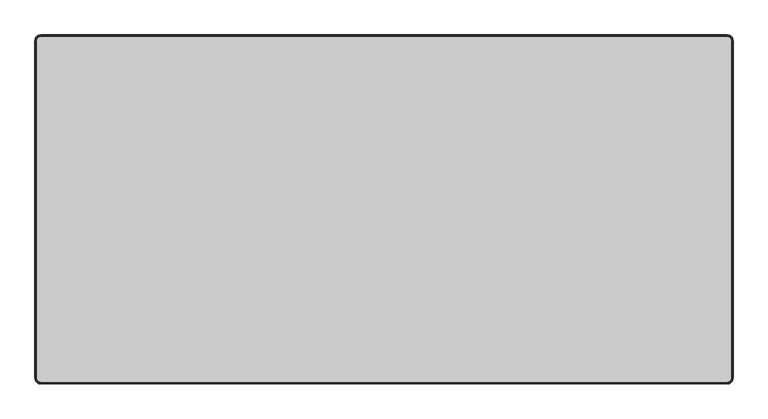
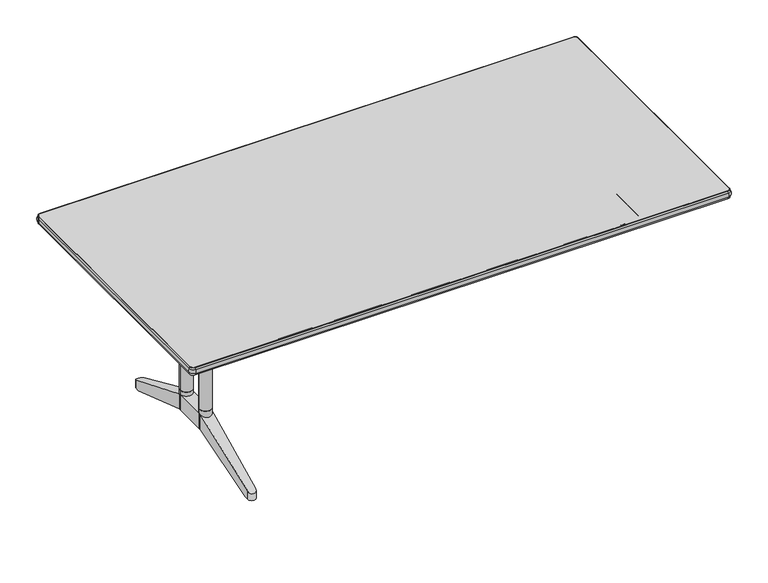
"""IFC4 building model written with IfcOpenShell, lengths in millimetres: furniture geometry, Furniture_Wilkhahn_614-00_TimetableShift : TIMETABLE SHIFT 614/00 1800L x 0900W."""

from ifc_helpers import new_model, si_unit, point, frame, frame_2d, origin, place, context, project, spatial, polyline, circle_curve, ellipse_curve, trimmed, segment, composite_curve, outline, extrude, source, transform, mapped, element, save
from ifc_brep_helpers import plane_surface, cylinder_surface, revolved_surface, advanced_brep


def furniture_7824c613(model_context):
    return source(origin(), model_context, "Body", "SolidModel", [
        extrude(outline(composite_curve([segment(trimmed(circle_curve(frame_2d((-625.0, -154.0488451)), 20.0), [point((-645.0, -154.0488451))], [point((-605.0, -154.0488451))], False, "CARTESIAN"), True, "CONTINUOUS"), segment(trimmed(circle_curve(frame_2d((-625.0, -154.0488451)), 20.0), [point((-605.0, -154.0488451))], [point((-645.0, -154.0488451))], False, "CARTESIAN"), True, "CONTINUOUS")], self_intersect=False)), frame((0.0, 0.0, 193.3080085), z_axis=(0.0, 0.0, 1.0), x_axis=(1.0, 0.0, 0.0)), (0.0, 0.0, 1.0), 68.8536941),
        extrude(outline(composite_curve([segment(trimmed(circle_curve(frame_2d((-625.0, -44.0488461)), 20.0), [point((-645.0, -44.0488461))], [point((-605.0, -44.0488461))], False, "CARTESIAN"), True, "CONTINUOUS"), segment(trimmed(circle_curve(frame_2d((-625.0, -44.0488461)), 20.0), [point((-605.0, -44.0488461))], [point((-645.0, -44.0488461))], False, "CARTESIAN"), True, "CONTINUOUS")], self_intersect=False)), frame((0.0, 0.0, 193.3080085), z_axis=(0.0, 0.0, 1.0), x_axis=(1.0, 0.0, 0.0)), (0.0, 0.0, 1.0), 68.8536941),
        extrude(outline(composite_curve([segment(trimmed(circle_curve(frame_2d((-625.0, -154.0488451)), 20.0), [point((-645.0, -154.0488451))], [point((-605.0, -154.0488451))], False, "CARTESIAN"), True, "CONTINUOUS"), segment(trimmed(circle_curve(frame_2d((-625.0, -154.0488451)), 20.0), [point((-605.0, -154.0488451))], [point((-645.0, -154.0488451))], False, "CARTESIAN"), True, "CONTINUOUS")], self_intersect=False)), frame((0.0, 0.0, 262.1617027), z_axis=(0.0, 0.0, 1.0), x_axis=(1.0, 0.0, 0.0)), (0.0, 0.0, 1.0), 317.8382973),
        extrude(outline(composite_curve([segment(trimmed(circle_curve(frame_2d((-625.0, -44.0488461)), 20.0), [point((-645.0, -44.0488461))], [point((-605.0, -44.0488461))], False, "CARTESIAN"), True, "CONTINUOUS"), segment(trimmed(circle_curve(frame_2d((-625.0, -44.0488461)), 20.0), [point((-605.0, -44.0488461))], [point((-645.0, -44.0488461))], False, "CARTESIAN"), True, "CONTINUOUS")], self_intersect=False)), frame((0.0, 0.0, 262.1617027), z_axis=(0.0, 0.0, 1.0), x_axis=(1.0, 0.0, 0.0)), (0.0, 0.0, 1.0), 317.8382973),
        extrude(outline(polyline([(-598.9999882, 147.9511612), (-598.9999882, -352.0488426), (-651.0000118, -352.0488426), (-651.0000118, 147.9511612), (-598.9999882, 147.9511612)])), frame((0.0, 0.0, 676.0000168), z_axis=(0.0, 0.0, 1.0), x_axis=(1.0, 0.0, 0.0)), (0.0, 0.0, 1.0), 27.9999624),
        advanced_brep(
        [(-639.9998762, -140.8200278, 676.0000168), (-609.9998905, -140.8201331, 676.0000168), (-609.9998905, -134.0488456, 676.0000168), (-639.9998762, -134.0488456, 676.0000168), (-609.9998905, -57.2775581, 676.0000168), (-639.9998762, -57.2776634, 676.0000168), (-639.9998762, -64.0488456, 676.0000168), (-609.9998905, -64.0488456, 676.0000168), (-639.9998762, -57.2776634, 580.0), (-609.9998905, -57.2775581, 580.0), (-609.9998905, -140.8201331, 580.0), (-639.9998762, -140.8200278, 580.0), (-639.9998762, -134.0488456, 598.0000176), (-639.9998762, -64.0488456, 598.0000176), (-609.9998905, -64.0488456, 598.0000176), (-609.9998905, -134.0488456, 598.0000176)],
        [
            (0, 1, circle_curve(frame((-624.9999298, -154.0488451, 676.0000168), z_axis=(0.0, 0.0, 1.0), x_axis=(1.0, 0.0, 0.0)), 20.0)),
            (1, 2),
            (2, 3),
            (3, 0),
            (4, 5, circle_curve(frame((-624.9999298, -44.0488461, 676.0000168), z_axis=(0.0, 0.0, 1.0), x_axis=(1.0, 0.0, 0.0)), 20.0)),
            (5, 6),
            (6, 7),
            (7, 4),
            (8, 9, circle_curve(frame((-624.9999298, -44.0488461, 580.0), z_axis=(0.0, 0.0, -1.0), x_axis=(1.0, 0.0, 0.0)), 20.0)),
            (9, 10),
            (10, 11, circle_curve(frame((-624.9999298, -154.0488451, 580.0), z_axis=(0.0, 0.0, -1.0), x_axis=(1.0, 0.0, 0.0)), 20.0)),
            (11, 8),
            (11, 0),
            (3, 12),
            (12, 13),
            (13, 6),
            (5, 8),
            (10, 1),
            (9, 4),
            (7, 14),
            (14, 15),
            (15, 2),
            (15, 12),
            (14, 13),
        ],
        [
            plane_surface(frame((-639.9998762, -140.8200278, 676.0000168), z_axis=(0.0, 0.0, 1.0), x_axis=(0.0, -1.0, 0.0))),
            plane_surface(frame((-639.9998762, -140.8200278, 580.0), z_axis=(0.0, 0.0, -1.0), x_axis=(0.0, 1.0, 0.0))),
            plane_surface(frame((-639.9998762, -57.2776634, 676.0000168), z_axis=(-1.0, 0.0, 0.0), x_axis=(0.0, 0.0, -1.0))),
            cylinder_surface(frame((-624.9999298, -154.0488451, 580.0), z_axis=(0.0, 0.0, 1.0), x_axis=(1.0, 0.0, 0.0)), 20.0),
            plane_surface(frame((-609.9998905, -140.8201331, 676.0000168), z_axis=(1.0, 0.0, 0.0), x_axis=(0.0, 0.0, -1.0))),
            cylinder_surface(frame((-624.9999298, -44.0488461, 580.0), z_axis=(0.0, 0.0, 1.0), x_axis=(1.0, 0.0, 0.0)), 20.0),
            plane_surface(frame((-609.9998905, -134.0488456, 676.0000168), z_axis=(0.0, 1.0, 0.0), x_axis=(-1.0, 0.0, 0.0))),
            plane_surface(frame((-609.9998905, -134.0488456, 598.0000176), z_axis=(0.0, 0.0, 1.0), x_axis=(-1.0, 0.0, 0.0))),
            plane_surface(frame((-609.9998905, -64.0488456, 598.0000176), z_axis=(0.0, -1.0, 0.0), x_axis=(-1.0, 0.0, 0.0))),
        ],
        [
            (0, [[1, 2, 3, 4]]),
            (0, [[5, 6, 7, 8]]),
            (1, [[9, 10, 11, 12]]),
            (2, [[-12, 13, -4, 14, 15, 16, -6, 17]]),
            (3, [[-1, -13, -11, 18]]),
            (4, [[-10, 19, -8, 20, 21, 22, -2, -18]]),
            (5, [[-5, -19, -9, -17]]),
            (6, [[23, -14, -3, -22]]),
            (7, [[-23, -21, 24, -15]]),
            (8, [[-24, -20, -7, -16]]),
        ],
    ),
        advanced_brep(
        [(-611.5271049, 208.4135103, 105.0), (-638.472897, 208.4135103, 105.0), (-638.1262294, 221.8222582, 105.0), (-611.8737706, 221.8222564, 105.0), (-638.1262294, 221.8222582, 133.4205559), (-645.0000182, -44.0488461, 248.3080085), (-605.0000182, -44.0488461, 248.3080085), (-611.8737706, 221.8222564, 133.4205567), (-605.2000412, -36.3121196, 193.3080085), (-644.7999941, -36.3121196, 193.3080085), (-611.8737706, -419.9199475, 133.4205567), (-605.0000182, -154.0488451, 248.3080085), (-645.0000182, -154.0488451, 248.3080085), (-638.1262294, -419.9199493, 133.4205559), (-611.8737706, -419.9199475, 105.0), (-611.5271049, -406.5112014, 105.0), (-605.2000412, -161.7855715, 193.3080085), (-605.0000182, -154.0488451, 193.3080085), (-638.1262294, -419.9199493, 105.0), (-645.0000182, -154.0488451, 193.3080085), (-644.7999941, -161.7855715, 193.3080085), (-638.472897, -406.5112014, 105.0), (-645.0000182, -44.0488461, 193.3080085), (-605.0000182, -44.0488461, 193.3080085)],
        [
            (0, 1),
            (1, 2),
            (2, 3, circle_curve(frame((-625.0, 221.4828948, 105.0), z_axis=(0.0, 0.0, -1.0), x_axis=(1.0, 0.0, 0.0)), 13.1306156)),
            (3, 0),
            (4, 5),
            (5, 6),
            (6, 7),
            (7, 4, ellipse_curve(frame((-625.0, 221.4828948, 133.5672007), z_axis=(0.0, 0.3966672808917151, 0.9179624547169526), x_axis=(0.0, 0.9179624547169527, -0.39666728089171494)), 14.3040878, 13.1306156)),
            (0, 8),
            (8, 9),
            (9, 1),
            (10, 11),
            (11, 12),
            (12, 13),
            (13, 10, ellipse_curve(frame((-625.0, -419.5805859, 133.5672007), z_axis=(0.0, -0.3966672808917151, 0.9179624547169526), x_axis=(0.0, -0.9179624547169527, -0.39666728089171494)), 14.3040878, 13.1306156)),
            (10, 14),
            (14, 15),
            (15, 16),
            (16, 17),
            (17, 11),
            (13, 18),
            (18, 14, circle_curve(frame((-625.0, -419.5805859, 105.0), z_axis=(0.0, 0.0, 1.0), x_axis=(1.0, 0.0, 0.0)), 13.1306156)),
            (12, 19),
            (19, 20),
            (20, 21),
            (21, 18),
            (4, 2),
            (9, 22),
            (22, 5),
            (7, 3),
            (6, 23),
            (23, 8),
            (21, 15),
            (20, 16),
            (11, 6),
            (5, 12),
            (22, 19),
            (17, 23),
        ],
        [
            plane_surface(frame((-603.6205415, 208.4135103, 105.0), z_axis=(0.0, 0.0, -1.0), x_axis=(-1.0, 0.0, 0.0))),
            plane_surface(frame((-603.6205415, 235.9511544, 127.3152182), z_axis=(0.0, 0.3966672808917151, 0.9179624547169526), x_axis=(-1.0, 0.0, 0.0))),
            plane_surface(frame((-603.6205415, -36.3121196, 193.3080085), z_axis=(0.0, -0.3394229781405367, -0.9406338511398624), x_axis=(-1.0, 0.0, 0.0))),
            plane_surface(frame((-603.6205415, -154.0488451, 248.3080085), z_axis=(0.0, -0.3966672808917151, 0.9179624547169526), x_axis=(-1.0, 0.0, 0.0))),
            plane_surface(frame((-605.0000182, -154.0488451, 249.0000084), z_axis=(0.9996659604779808, -0.025845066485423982, 0.0), x_axis=(0.0, 0.0, -1.0))),
            cylinder_surface(frame((-625.0, -419.5805859, 90.0000025), z_axis=(0.0, 0.0, -1.0), x_axis=(1.0, 0.0, 0.0)), 13.1306156),
            plane_surface(frame((-638.1262294, -419.9199493, 249.0000084), z_axis=(-0.9996659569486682, -0.025845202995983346, 0.0), x_axis=(0.0, 0.0, -1.0))),
            plane_surface(frame((-645.0000182, -44.0488461, 249.0000084), z_axis=(-0.9996659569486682, 0.025845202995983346, 0.0), x_axis=(0.0, 0.0, -1.0))),
            cylinder_surface(frame((-625.0, 221.4828948, 0.0), z_axis=(0.0, 0.0, -1.0), x_axis=(1.0, 0.0, 0.0)), 13.1306156),
            plane_surface(frame((-611.8737706, 221.8222564, 249.0000084), z_axis=(0.9996659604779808, 0.025845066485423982, 0.0), x_axis=(0.0, 0.0, -1.0))),
            plane_surface(frame((-603.6205415, -434.0488456, 105.0), z_axis=(0.0, 0.0, -1.0), x_axis=(-1.0, 0.0, 0.0))),
            plane_surface(frame((-603.6205415, -406.5112014, 105.0), z_axis=(0.0, 0.3394229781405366, -0.9406338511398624), x_axis=(-1.0, 0.0, 0.0))),
            plane_surface(frame((-605.0000182, -44.0488461, 248.3080085), z_axis=(0.0, 0.0, 1.0), x_axis=(0.0, 1.0, 0.0))),
            plane_surface(frame((-645.0000182, -44.0488461, 248.3080085), z_axis=(-1.0, 0.0, 0.0), x_axis=(0.0, 0.0, -1.0))),
            plane_surface(frame((-605.0000182, -154.0488451, 248.3080085), z_axis=(1.0, 0.0, 0.0), x_axis=(0.0, 0.0, -1.0))),
            plane_surface(frame((-603.6205415, -44.0488461, 193.3080085), z_axis=(0.0, 0.0, -1.0), x_axis=(-1.0, 0.0, 0.0))),
        ],
        [
            (0, [[1, 2, 3, 4]]),
            (1, [[5, 6, 7, 8]]),
            (2, [[-1, 9, 10, 11]]),
            (3, [[12, 13, 14, 15]]),
            (4, [[16, 17, 18, 19, 20, -12]]),
            (5, [[-16, -15, 21, 22]]),
            (6, [[-21, -14, 23, 24, 25, 26]]),
            (7, [[27, -2, -11, 28, 29, -5]]),
            (8, [[-27, -8, 30, -3]]),
            (9, [[-30, -7, 31, 32, -9, -4]]),
            (10, [[33, -17, -22, -26]]),
            (11, [[-33, -25, 34, -18]]),
            (12, [[35, -6, 36, -13]]),
            (13, [[-36, -29, 37, -23]]),
            (14, [[-35, -20, 38, -31]]),
            (15, [[-10, -32, -38, -19, -34, -24, -37, -28]]),
        ],
    ),
        extrude(outline(composite_curve([segment(trimmed(circle_curve(frame_2d((-885.0, 335.9511544)), 10.0), [point((-895.0, 335.9511544))], [point((-885.0, 345.9511544))], False, "CARTESIAN"), True, "CONTINUOUS"), segment(polyline([(-885.0, 345.9511544), (885.0, 345.9511544)]), True, "CONTINUOUS"), segment(trimmed(circle_curve(frame_2d((885.0, 335.9511544)), 10.0), [point((885.0, 345.9511544))], [point((895.0, 335.9511544))], False, "CARTESIAN"), True, "CONTINUOUS"), segment(polyline([(895.0, 335.9511544), (895.0, -534.0488456)]), True, "CONTINUOUS"), segment(trimmed(circle_curve(frame_2d((885.0, -534.0488456)), 10.0), [point((895.0, -534.0488456))], [point((885.0, -544.0488456))], False, "CARTESIAN"), True, "CONTINUOUS"), segment(polyline([(885.0, -544.0488456), (-885.0, -544.0488456)]), True, "CONTINUOUS"), segment(trimmed(circle_curve(frame_2d((-885.0, -534.0488456)), 10.0), [point((-885.0, -544.0488456))], [point((-895.0, -534.0488456))], False, "CARTESIAN"), True, "CONTINUOUS"), segment(polyline([(-895.0, -534.0488456), (-895.0, 335.9511544)]), True, "CONTINUOUS")], self_intersect=False)), frame((0.0, 0.0, 703.9999792), z_axis=(0.0, 0.0, 1.0), x_axis=(1.0, 0.0, 0.0)), (0.0, 0.0, 1.0), 26.0000208),
        extrude(outline(composite_curve([segment(trimmed(circle_curve(frame_2d((689.999998, -625.0)), 3.5), [point((686.499998, -625.0))], [point((693.499998, -625.0))], False, "CARTESIAN"), True, "CONTINUOUS"), segment(trimmed(circle_curve(frame_2d((689.999998, -625.0)), 3.5), [point((693.499998, -625.0))], [point((686.499998, -625.0))], False, "CARTESIAN"), True, "CONTINUOUS")], self_intersect=False)), frame((0.0, -475.4394749, 0.0), z_axis=(0.0, 1.0, 0.0), x_axis=(0.0, 0.0, 1.0)), (0.0, 0.0, 1.0), 123.3906323),
        extrude(outline(composite_curve([segment(trimmed(circle_curve(frame_2d((689.999998, 625.0)), 3.5), [point((686.499998, 625.0))], [point((693.499998, 625.0))], False, "CARTESIAN"), True, "CONTINUOUS"), segment(trimmed(circle_curve(frame_2d((689.999998, 625.0)), 3.5), [point((693.499998, 625.0))], [point((686.499998, 625.0))], False, "CARTESIAN"), True, "CONTINUOUS")], self_intersect=False)), frame((0.0, -475.4394749, 0.0), z_axis=(0.0, 1.0, 0.0), x_axis=(0.0, 0.0, 1.0)), (0.0, 0.0, 1.0), 123.3906323),
        advanced_brep(
        [(-885.0, -544.0488456, 703.9999792), (-895.0, -534.0488456, 703.9999792), (-895.0, -534.0488456, 730.0), (-885.0, -544.0488456, 730.0), (-885.0, -547.4983863, 710.4062743), (-898.4495407, -534.0488456, 710.4062743), (-896.2436764, -534.0488456, 703.9999792), (-885.0, -545.292522, 703.9999792), (-885.0, -547.4983863, 723.593705), (-898.4495407, -534.0488456, 723.593705), (-885.0, -545.292522, 730.0), (-896.2436764, -534.0488456, 730.0), (885.0, -544.0488456, 730.0), (885.0, -544.0488456, 703.9999792), (885.0, -545.292522, 703.9999792), (885.0, -547.4983863, 710.4062743), (885.0, -547.4983863, 723.593705), (885.0, -545.292522, 730.0), (895.0, -534.0488456, 703.9999792), (895.0, -534.0488456, 730.0), (898.4495407, -534.0488456, 710.4062743), (896.2436764, -534.0488456, 703.9999792), (898.4495407, -534.0488456, 723.593705), (896.2436764, -534.0488456, 730.0), (895.0, 335.9511544, 730.0), (895.0, 335.9511544, 703.9999792), (896.2436764, 335.9511544, 703.9999792), (898.4495407, 335.9511544, 710.4062743), (898.4495407, 335.9511544, 723.593705), (896.2436764, 335.9511544, 730.0), (885.0, 345.9511544, 703.9999792), (885.0, 345.9511544, 730.0), (885.0, 349.4006952, 710.4062743), (885.0, 347.1948309, 703.9999792), (885.0, 349.4006952, 723.593705), (885.0, 347.1948309, 730.0), (-885.0, 345.9511544, 730.0), (-885.0, 345.9511544, 703.9999792), (-885.0, 347.1948309, 703.9999792), (-885.0, 349.4006952, 710.4062743), (-885.0, 349.4006952, 723.593705), (-885.0, 347.1948309, 730.0), (-895.0, 335.9511544, 703.9999792), (-895.0, 335.9511544, 730.0), (-898.4495407, 335.9511544, 710.4062743), (-896.2436764, 335.9511544, 703.9999792), (-898.4495407, 335.9511544, 723.593705), (-896.2436764, 335.9511544, 730.0)],
        [
            (0, 1, circle_curve(frame((-885.0, -534.0488456, 703.9999792), z_axis=(0.0, 0.0, -1.0), x_axis=(-1.0, 0.0, 0.0)), 10.0)),
            (1, 2),
            (2, 3, circle_curve(frame((-885.0, -534.0488456, 730.0), z_axis=(0.0, 0.0, 1.0), x_axis=(-1.0, 0.0, 0.0)), 10.0)),
            (3, 0),
            (4, 5, circle_curve(frame((-885.0, -534.0488456, 710.4062743), z_axis=(0.0, 0.0, -1.0), x_axis=(-1.0, 0.0, 0.0)), 13.4495407)),
            (5, 6),
            (6, 7, circle_curve(frame((-885.0, -534.0488456, 703.9999792), z_axis=(0.0, 0.0, 1.0), x_axis=(-1.0, 0.0, 0.0)), 11.2436764)),
            (7, 4),
            (8, 9, circle_curve(frame((-885.0, -534.0488456, 723.593705), z_axis=(0.0, 0.0, -1.0), x_axis=(-1.0, 0.0, 0.0)), 13.4495407)),
            (9, 5, circle_curve(frame((-885.2040596, -534.0488456, 716.9999896), z_axis=(0.0, -1.0, 0.0), x_axis=(1.0, 0.0, 0.0)), 14.7959404)),
            (4, 8, circle_curve(frame((-885.0, -534.2529051, 716.9999896), z_axis=(-1.0, 0.0, 0.0), x_axis=(0.0, 1.0, 0.0)), 14.7959404)),
            (10, 11, circle_curve(frame((-885.0, -534.0488456, 730.0), z_axis=(0.0, 0.0, -1.0), x_axis=(-1.0, 0.0, 0.0)), 11.2436764)),
            (11, 9),
            (8, 10),
            (3, 12),
            (12, 13),
            (13, 0),
            (7, 14),
            (14, 15),
            (15, 4),
            (15, 16, circle_curve(frame((885.0, -534.2529051, 716.9999896), z_axis=(-1.0, 0.0, 0.0), x_axis=(0.0, 1.0, 0.0)), 14.7959404)),
            (16, 8),
            (16, 17),
            (17, 10),
            (18, 13, circle_curve(frame((885.0, -534.0488456, 703.9999792), z_axis=(0.0, 0.0, -1.0), x_axis=(0.0, -1.0, 0.0)), 10.0)),
            (12, 19, circle_curve(frame((885.0, -534.0488456, 730.0), z_axis=(0.0, 0.0, 1.0), x_axis=(0.0, -1.0, 0.0)), 10.0)),
            (19, 18),
            (20, 15, circle_curve(frame((885.0, -534.0488456, 710.4062743), z_axis=(0.0, 0.0, -1.0), x_axis=(0.0, -1.0, 0.0)), 13.4495407)),
            (14, 21, circle_curve(frame((885.0, -534.0488456, 703.9999792), z_axis=(0.0, 0.0, 1.0), x_axis=(0.0, -1.0, 0.0)), 11.2436764)),
            (21, 20),
            (22, 16, circle_curve(frame((885.0, -534.0488456, 723.593705), z_axis=(0.0, 0.0, -1.0), x_axis=(0.0, -1.0, 0.0)), 13.4495407)),
            (20, 22, circle_curve(frame((885.2040596, -534.0488456, 716.9999896), z_axis=(0.0, -1.0, 0.0), x_axis=(-1.0, 0.0, 0.0)), 14.7959404)),
            (23, 17, circle_curve(frame((885.0, -534.0488456, 730.0), z_axis=(0.0, 0.0, -1.0), x_axis=(0.0, -1.0, 0.0)), 11.2436764)),
            (22, 23),
            (19, 24),
            (24, 25),
            (25, 18),
            (21, 26),
            (26, 27),
            (27, 20),
            (27, 28, circle_curve(frame((885.2040596, 335.9511544, 716.9999896), z_axis=(0.0, -1.0, 0.0), x_axis=(-1.0, 0.0, 0.0)), 14.7959404)),
            (28, 22),
            (28, 29),
            (29, 23),
            (30, 25, circle_curve(frame((885.0, 335.9511544, 703.9999792), z_axis=(0.0, 0.0, -1.0), x_axis=(1.0, 0.0, 0.0)), 10.0)),
            (24, 31, circle_curve(frame((885.0, 335.9511544, 730.0), z_axis=(0.0, 0.0, 1.0), x_axis=(1.0, 0.0, 0.0)), 10.0)),
            (31, 30),
            (32, 27, circle_curve(frame((885.0, 335.9511544, 710.4062743), z_axis=(0.0, 0.0, -1.0), x_axis=(1.0, 0.0, 0.0)), 13.4495407)),
            (26, 33, circle_curve(frame((885.0, 335.9511544, 703.9999792), z_axis=(0.0, 0.0, 1.0), x_axis=(1.0, 0.0, 0.0)), 11.2436764)),
            (33, 32),
            (34, 28, circle_curve(frame((885.0, 335.9511544, 723.593705), z_axis=(0.0, 0.0, -1.0), x_axis=(1.0, 0.0, 0.0)), 13.4495407)),
            (32, 34, circle_curve(frame((885.0, 336.155214, 716.9999896), z_axis=(1.0, 0.0, 0.0), x_axis=(0.0, -1.0, 0.0)), 14.7959404)),
            (35, 29, circle_curve(frame((885.0, 335.9511544, 730.0), z_axis=(0.0, 0.0, -1.0), x_axis=(1.0, 0.0, 0.0)), 11.2436764)),
            (34, 35),
            (31, 36),
            (36, 37),
            (37, 30),
            (33, 38),
            (38, 39),
            (39, 32),
            (39, 40, circle_curve(frame((-885.0, 336.155214, 716.9999896), z_axis=(1.0, 0.0, 0.0), x_axis=(0.0, -1.0, 0.0)), 14.7959404)),
            (40, 34),
            (40, 41),
            (41, 35),
            (42, 37, circle_curve(frame((-885.0, 335.9511544, 703.9999792), z_axis=(0.0, 0.0, -1.0), x_axis=(0.0, 1.0, 0.0)), 10.0)),
            (36, 43, circle_curve(frame((-885.0, 335.9511544, 730.0), z_axis=(0.0, 0.0, 1.0), x_axis=(0.0, 1.0, 0.0)), 10.0)),
            (43, 42),
            (44, 39, circle_curve(frame((-885.0, 335.9511544, 710.4062743), z_axis=(0.0, 0.0, -1.0), x_axis=(0.0, 1.0, 0.0)), 13.4495407)),
            (38, 45, circle_curve(frame((-885.0, 335.9511544, 703.9999792), z_axis=(0.0, 0.0, 1.0), x_axis=(0.0, 1.0, 0.0)), 11.2436764)),
            (45, 44),
            (46, 40, circle_curve(frame((-885.0, 335.9511544, 723.593705), z_axis=(0.0, 0.0, -1.0), x_axis=(0.0, 1.0, 0.0)), 13.4495407)),
            (44, 46, circle_curve(frame((-885.2040596, 335.9511544, 716.9999896), z_axis=(0.0, 1.0, 0.0), x_axis=(1.0, 0.0, 0.0)), 14.7959404)),
            (47, 41, circle_curve(frame((-885.0, 335.9511544, 730.0), z_axis=(0.0, 0.0, -1.0), x_axis=(0.0, 1.0, 0.0)), 11.2436764)),
            (46, 47),
            (43, 2),
            (1, 42),
            (45, 6),
            (5, 44),
            (9, 46),
            (11, 47),
        ],
        [
            revolved_surface(polyline([(-895.0, -534.0488456, 730.0), (-895.0, -534.0488456, 703.9999792)]), (-885.0, -534.0488456, 730.0), (0.0, 0.0, 1.0)),
            revolved_surface(polyline([(-896.2436764, -534.0488456, 703.9999792), (-898.4495407, -534.0488456, 710.4062743)]), (-885.0, -534.0488456, 730.0), (0.0, 0.0, 1.0)),
            revolved_surface(trimmed(ellipse_curve(frame((-885.2040596, -534.0488456, 716.9999896), z_axis=(0.0, 1.0, 0.0), x_axis=(1.0, 0.0, 0.0)), 14.7959404, 14.7959404), [point((-898.4495407, -534.0488456, 710.4062743))], [point((-898.4495407, -534.0488456, 723.593705))], True, "CARTESIAN"), (-885.0, -534.0488456, 730.0), (0.0, 0.0, 1.0)),
            revolved_surface(polyline([(-898.4495407, -534.0488456, 723.593705), (-896.2436764, -534.0488456, 730.0)]), (-885.0, -534.0488456, 730.0), (0.0, 0.0, 1.0)),
            plane_surface(frame((-885.0, -544.0488456, 730.0), z_axis=(0.0, 1.0, 0.0), x_axis=(1.0, 0.0, 0.0))),
            plane_surface(frame((-885.0, -545.292522, 703.9999792), z_axis=(0.0, -0.9455185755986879, -0.32556815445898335), x_axis=(1.0, 0.0, 0.0))),
            cylinder_surface(frame((-885.0, -534.2529051, 716.9999896), z_axis=(-1.0, 0.0, 0.0), x_axis=(0.0, 1.0, 0.0)), 14.7959404),
            plane_surface(frame((-885.0, -547.4983863, 723.593705), z_axis=(0.0, -0.945518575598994, 0.32556815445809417), x_axis=(1.0, 0.0, 0.0))),
            revolved_surface(polyline([(885.0, -544.0488456, 730.0), (885.0, -544.0488456, 703.9999792)]), (885.0, -534.0488456, 730.0), (0.0, 0.0, 1.0)),
            revolved_surface(polyline([(885.0, -545.292522, 703.9999792), (885.0, -547.4983863, 710.4062743)]), (885.0, -534.0488456, 730.0), (0.0, 0.0, 1.0)),
            revolved_surface(trimmed(ellipse_curve(frame((885.0, -534.2529051, 716.9999896), z_axis=(-1.0, 0.0, 0.0), x_axis=(0.0, 1.0, 0.0)), 14.7959404, 14.7959404), [point((885.0, -547.4983863, 710.4062743))], [point((885.0, -547.4983863, 723.593705))], True, "CARTESIAN"), (885.0, -534.0488456, 730.0), (0.0, 0.0, 1.0)),
            revolved_surface(polyline([(885.0, -547.4983863, 723.593705), (885.0, -545.292522, 730.0)]), (885.0, -534.0488456, 730.0), (0.0, 0.0, 1.0)),
            plane_surface(frame((895.0, -534.0488456, 730.0), z_axis=(-1.0, 0.0, 0.0), x_axis=(0.0, 1.0, 0.0))),
            plane_surface(frame((896.2436764, -534.0488456, 703.9999792), z_axis=(0.9455185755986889, 0.0, -0.32556815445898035), x_axis=(0.0, 1.0, 0.0))),
            cylinder_surface(frame((885.2040596, -534.0488456, 716.9999896), z_axis=(0.0, -1.0, 0.0), x_axis=(-1.0, 0.0, 0.0)), 14.7959404),
            plane_surface(frame((898.4495407, -534.0488456, 723.593705), z_axis=(0.945518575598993, 0.0, 0.32556815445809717), x_axis=(0.0, 1.0, 0.0))),
            revolved_surface(polyline([(895.0, 335.9511544, 730.0), (895.0, 335.9511544, 703.9999792)]), (885.0, 335.9511544, 730.0), (0.0, 0.0, 1.0)),
            revolved_surface(polyline([(896.2436764, 335.9511544, 703.9999792), (898.4495407, 335.9511544, 710.4062743)]), (885.0, 335.9511544, 730.0), (0.0, 0.0, 1.0)),
            revolved_surface(trimmed(ellipse_curve(frame((885.2040596, 335.9511544, 716.9999896), z_axis=(0.0, -1.0, 0.0), x_axis=(-1.0, 0.0, 0.0)), 14.7959404, 14.7959404), [point((898.4495407, 335.9511544, 710.4062743))], [point((898.4495407, 335.9511544, 723.593705))], True, "CARTESIAN"), (885.0, 335.9511544, 730.0), (0.0, 0.0, 1.0)),
            revolved_surface(polyline([(898.4495407, 335.9511544, 723.593705), (896.2436764, 335.9511544, 730.0)]), (885.0, 335.9511544, 730.0), (0.0, 0.0, 1.0)),
            plane_surface(frame((885.0, 345.9511544, 730.0), z_axis=(0.0, -1.0, 0.0), x_axis=(-1.0, 0.0, 0.0))),
            plane_surface(frame((885.0, 347.1948309, 703.9999792), z_axis=(0.0, 0.9455185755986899, -0.32556815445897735), x_axis=(-1.0, 0.0, 0.0))),
            cylinder_surface(frame((885.0, 336.155214, 716.9999896), z_axis=(1.0, 0.0, 0.0), x_axis=(0.0, -1.0, 0.0)), 14.7959404),
            plane_surface(frame((885.0, 349.4006952, 723.593705), z_axis=(0.0, 0.945518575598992, 0.32556815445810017), x_axis=(-1.0, 0.0, 0.0))),
            revolved_surface(polyline([(-885.0, 345.9511544, 730.0), (-885.0, 345.9511544, 703.9999792)]), (-885.0, 335.9511544, 730.0), (0.0, 0.0, 1.0)),
            revolved_surface(polyline([(-885.0, 347.1948309, 703.9999792), (-885.0, 349.4006952, 710.4062743)]), (-885.0, 335.9511544, 730.0), (0.0, 0.0, 1.0)),
            revolved_surface(trimmed(ellipse_curve(frame((-885.0, 336.155214, 716.9999896), z_axis=(1.0, 0.0, 0.0), x_axis=(0.0, -1.0, 0.0)), 14.7959404, 14.7959404), [point((-885.0, 349.4006952, 710.4062743))], [point((-885.0, 349.4006952, 723.593705))], True, "CARTESIAN"), (-885.0, 335.9511544, 730.0), (0.0, 0.0, 1.0)),
            revolved_surface(polyline([(-885.0, 349.4006952, 723.593705), (-885.0, 347.1948309, 730.0)]), (-885.0, 335.9511544, 730.0), (0.0, 0.0, 1.0)),
            plane_surface(frame((-895.0, 335.9511544, 730.0), z_axis=(1.0, 0.0, 0.0), x_axis=(0.0, -1.0, 0.0))),
            plane_surface(frame((-896.2436764, 335.9511544, 703.9999792), z_axis=(-0.9455185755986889, 0.0, -0.32556815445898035), x_axis=(0.0, -1.0, 0.0))),
            cylinder_surface(frame((-885.2040596, 335.9511544, 716.9999896), z_axis=(0.0, 1.0, 0.0), x_axis=(1.0, 0.0, 0.0)), 14.7959404),
            plane_surface(frame((-898.4495407, 335.9511544, 723.593705), z_axis=(-0.945518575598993, 0.0, 0.32556815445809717), x_axis=(0.0, -1.0, 0.0))),
            plane_surface(frame((-895.0, 335.9511544, 703.9999792), z_axis=(0.0, 0.0, -1.0), x_axis=(0.0, -1.0, 0.0))),
            plane_surface(frame((-896.2436764, 335.9511544, 730.0), z_axis=(0.0, 0.0, 1.0), x_axis=(0.0, -1.0, 0.0))),
        ],
        [
            (0, [[1, 2, 3, 4]]),
            (1, [[5, 6, 7, 8]]),
            (2, [[9, 10, -5, 11]]),
            (3, [[12, 13, -9, 14]]),
            (4, [[-4, 15, 16, 17]]),
            (5, [[-8, 18, 19, 20]]),
            (6, [[-11, -20, 21, 22]]),
            (7, [[-14, -22, 23, 24]]),
            (8, [[25, -16, 26, 27]]),
            (9, [[28, -19, 29, 30]]),
            (10, [[31, -21, -28, 32]]),
            (11, [[33, -23, -31, 34]]),
            (12, [[-27, 35, 36, 37]]),
            (13, [[-30, 38, 39, 40]]),
            (14, [[-32, -40, 41, 42]]),
            (15, [[-34, -42, 43, 44]]),
            (16, [[45, -36, 46, 47]]),
            (17, [[48, -39, 49, 50]]),
            (18, [[51, -41, -48, 52]]),
            (19, [[53, -43, -51, 54]]),
            (20, [[-47, 55, 56, 57]]),
            (21, [[-50, 58, 59, 60]]),
            (22, [[-52, -60, 61, 62]]),
            (23, [[-54, -62, 63, 64]]),
            (24, [[65, -56, 66, 67]]),
            (25, [[68, -59, 69, 70]]),
            (26, [[71, -61, -68, 72]]),
            (27, [[73, -63, -71, 74]]),
            (28, [[-67, 75, -2, 76]]),
            (29, [[-70, 77, -6, 78]]),
            (30, [[-72, -78, -10, 79]]),
            (31, [[-74, -79, -13, 80]]),
            (32, [[-77, -69, -58, -49, -38, -29, -18, -7], [-57, -65, -76, -1, -17, -25, -37, -45]]),
            (33, [[-64, -73, -80, -12, -24, -33, -44, -53], [-75, -66, -55, -46, -35, -26, -15, -3]]),
        ],
    ),
        advanced_brep(
        [(-650.9999286, -475.4394749, 701.7335614), (-650.9999286, -475.4394749, 686.7335614), (-570.1927788, -475.4394749, 678.733541), (-569.000359, -475.4394749, 693.733541), (569.000359, -475.4394749, 693.733541), (570.1927788, -475.4394749, 678.733541), (650.8748715, -475.4394749, 701.7335614), (650.8748715, -475.4394749, 686.7335614), (619.0003594, -475.4394749, 701.7335614), (620.1927792, -475.4394749, 686.7335614), (-619.0003594, -475.4394749, 701.7335614), (-620.1927792, -475.4394749, 686.7335614)],
        [
            (0, 1, circle_curve(frame((-650.9999286, -475.4394749, 694.2335614), z_axis=(-1.0, 0.0, 0.0), x_axis=(0.0, 0.0, -1.0)), 7.5)),
            (1, 0, circle_curve(frame((-650.9999286, -475.4394749, 694.2335614), z_axis=(-1.0, 0.0, 0.0), x_axis=(0.0, 0.0, -1.0)), 7.5)),
            (2, 3, ellipse_curve(frame((-569.5965689, -475.4394749, 686.233541), z_axis=(0.9968551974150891, 0.0, -0.07924465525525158), x_axis=(-0.0792446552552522, 0.0, -0.9968551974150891)), 7.5236604, 7.5)),
            (3, 4),
            (4, 5, ellipse_curve(frame((569.5965689, -475.4394749, 686.233541), z_axis=(-0.9968551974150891, 0.0, -0.07924465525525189), x_axis=(-0.0792446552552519, 0.0, 0.9968551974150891)), 7.5236604, 7.5)),
            (5, 2),
            (3, 2, ellipse_curve(frame((-569.5965689, -475.4394749, 686.233541), z_axis=(0.9968551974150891, 0.0, -0.07924465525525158), x_axis=(-0.0792446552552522, 0.0, -0.9968551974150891)), 7.5236604, 7.5)),
            (5, 4, ellipse_curve(frame((569.5965689, -475.4394749, 686.233541), z_axis=(-0.9968551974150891, 0.0, -0.07924465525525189), x_axis=(-0.0792446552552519, 0.0, 0.9968551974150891)), 7.5236604, 7.5)),
            (6, 7, circle_curve(frame((650.8748715, -475.4394749, 694.2335614), z_axis=(1.0, 0.0, 0.0), x_axis=(0.0, 0.0, -1.0)), 7.5)),
            (7, 6, circle_curve(frame((650.8748715, -475.4394749, 694.2335614), z_axis=(1.0, 0.0, 0.0), x_axis=(0.0, 0.0, -1.0)), 7.5)),
            (4, 8),
            (8, 9, ellipse_curve(frame((619.5965693, -475.4394749, 694.2335614), z_axis=(-0.9968551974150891, 0.0, -0.07924465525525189), x_axis=(0.0792446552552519, 0.0, -0.9968551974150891)), 7.5236604, 7.5)),
            (9, 5),
            (9, 8, ellipse_curve(frame((619.5965693, -475.4394749, 694.2335614), z_axis=(-0.9968551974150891, 0.0, -0.07924465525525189), x_axis=(0.0792446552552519, 0.0, -0.9968551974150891)), 7.5236604, 7.5)),
            (8, 6),
            (7, 9),
            (0, 10),
            (10, 11, ellipse_curve(frame((-619.5965693, -475.4394749, 694.2335614), z_axis=(-0.9968551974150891, 0.0, 0.07924465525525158), x_axis=(-0.0792446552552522, 0.0, -0.9968551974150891)), 7.5236604, 7.5)),
            (11, 1),
            (11, 10, ellipse_curve(frame((-619.5965693, -475.4394749, 694.2335614), z_axis=(-0.9968551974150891, 0.0, 0.07924465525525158), x_axis=(-0.0792446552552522, 0.0, -0.9968551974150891)), 7.5236604, 7.5)),
            (10, 3),
            (2, 11),
        ],
        [
            plane_surface(frame((-650.9999286, -549.0488456, 664.0000082), z_axis=(-1.0, 0.0, 0.0), x_axis=(0.0, 1.0, 0.0))),
            cylinder_surface(frame((-571.9999746, -475.4394749, 686.233541), z_axis=(-1.0, 0.0, 0.0), x_axis=(0.0, 0.0, -1.0)), 7.5),
            plane_surface(frame((650.8748715, -549.0488456, 664.0000082), z_axis=(1.0, 0.0, 0.0), x_axis=(0.0, 1.0, 0.0))),
            cylinder_surface(frame((567.2233486, -475.4394749, 685.8538248), z_axis=(-0.9874405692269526, 0.0, -0.1579908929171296), x_axis=(0.1579908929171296, 0.0, -0.9874405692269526)), 7.5),
            cylinder_surface(frame((621.999975, -475.4394749, 694.2335614), z_axis=(-1.0, 0.0, 0.0), x_axis=(0.0, 0.0, -1.0)), 7.5),
            cylinder_surface(frame((-650.9999286, -475.4394749, 694.2335614), z_axis=(-1.0, 0.0, 0.0), x_axis=(0.0, 0.0, -1.0)), 7.5),
            cylinder_surface(frame((-617.2233489, -475.4394749, 693.8538452), z_axis=(-0.9874405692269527, 0.0, 0.15799089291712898), x_axis=(-0.15799089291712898, 0.0, -0.9874405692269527)), 7.5),
        ],
        [
            (0, [[1, 2]]),
            (1, [[3, 4, 5, 6]]),
            (1, [[7, -6, 8, -4]]),
            (2, [[9, 10]]),
            (3, [[-5, 11, 12, 13]]),
            (3, [[-8, -13, 14, -11]]),
            (4, [[-12, 15, -10, 16]]),
            (4, [[-14, -16, -9, -15]]),
            (5, [[-1, 17, 18, 19]]),
            (5, [[-2, -19, 20, -17]]),
            (6, [[-18, 21, -3, 22]]),
            (6, [[-20, -22, -7, -21]]),
        ],
    ),
        extrude(outline(polyline([(-66.0488461, 600.0000046), (-66.0488461, 658.0000254), (-64.0488456, 658.0000254), (-64.0488456, 598.0000176), (-134.0488456, 598.0000176), (-134.0488456, 658.0000254), (-132.048845, 658.0000254), (-132.048845, 600.0000046), (-66.0488461, 600.0000046)])), frame((-640.0, 0.0, 0.0), z_axis=(1.0, 0.0, 0.0), x_axis=(0.0, 1.0, 0.0)), (0.0, 0.0, 1.0), 1280.0),
    ])


if __name__ == "__main__":
    model = new_model("IFC4")
    model_context = context("Model", 3, world=origin())
    ifc_project = project(units=[si_unit("LENGTHUNIT", "METRE", prefix="MILLI")], contexts=[model_context])
    site = spatial("IfcSite", under=ifc_project)
    building = spatial("IfcBuilding", under=site)
    placement = place(None, origin())
    furniture_shape = furniture_7824c613(model_context)
    element("IfcFurniture", 1, ObjectType="Furniture_Wilkhahn_614-00_TimetableShift : TIMETABLE SHIFT 614/00 1800L x 0900W", at=placement, inside=building, context=model_context, shape_type="MappedRepresentation", body=[
        mapped(furniture_shape, transform((0.0, 0.0, 0.0), x_axis=(1.0, 0.0, 0.0), y_axis=(0.0, 1.0, 0.0), z_axis=(0.0, 0.0, 1.0))),
    ])
    save(model, "model.ifc")
